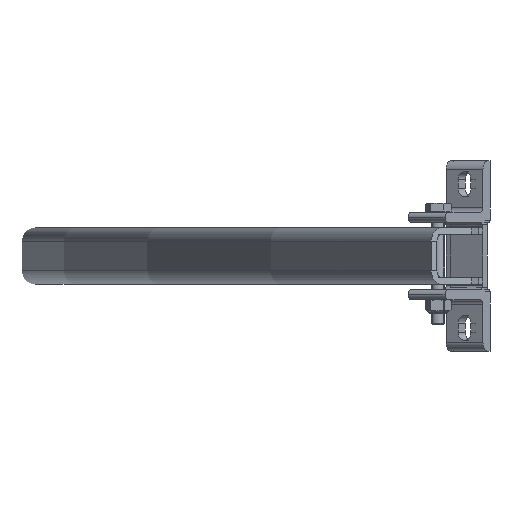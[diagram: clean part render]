
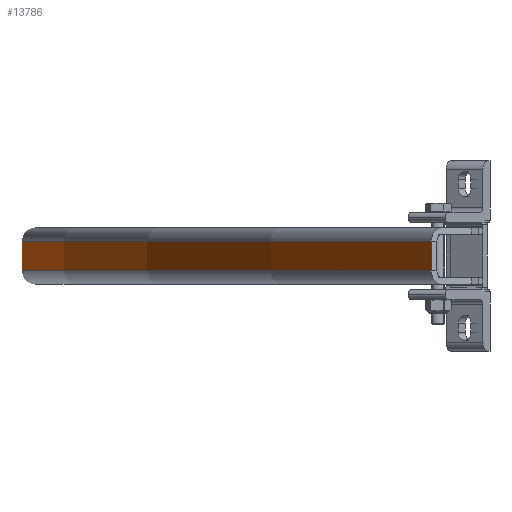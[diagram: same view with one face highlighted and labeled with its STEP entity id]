
A CAD part, front view. The second image highlights one B-rep face of the part: STEP entity #13786.
In plain terms, the highlighted cylindrical face has radius 1026 mm (diameter 2052 mm), a partial arc.
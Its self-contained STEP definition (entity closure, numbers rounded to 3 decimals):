
#1028 = CYLINDRICAL_SURFACE ( 'NONE', #17762, 1026. ) ;
#2442 = EDGE_CURVE ( 'NONE', #3223, #16980, #9757, .T. ) ;
#2485 = DIRECTION ( 'NONE',  ( 0., 0., -1. ) ) ;
#2706 = FACE_OUTER_BOUND ( 'NONE', #33342, .T. ) ;
#2731 = CARTESIAN_POINT ( 'NONE',  ( -6.625, 184.78, 587.389 ) ) ;
#3223 = VERTEX_POINT ( 'NONE', #21969 ) ;
#3275 = EDGE_CURVE ( 'NONE', #21508, #3223, #32443, .T. ) ;
#5217 = VECTOR ( 'NONE', #24027, 1000. ) ;
#6362 = ORIENTED_EDGE ( 'NONE', *, *, #33997, .F. ) ;
#7767 = EDGE_CURVE ( 'NONE', #29401, #21508, #28784, .T. ) ;
#9482 = ORIENTED_EDGE ( 'NONE', *, *, #7767, .T. ) ;
#9757 = CIRCLE ( 'NONE', #13305, 1026. ) ;
#10477 = AXIS2_PLACEMENT_3D ( 'NONE', #24227, #13186, #19244 ) ;
#11759 = CARTESIAN_POINT ( 'NONE',  ( 6.625, 184.78, 587.389 ) ) ;
#12054 = DIRECTION ( 'NONE',  ( -1., 0., 0. ) ) ;
#13186 = DIRECTION ( 'NONE',  ( 1., 0., 0. ) ) ;
#13305 = AXIS2_PLACEMENT_3D ( 'NONE', #13505, #32759, #2485 ) ;
#13505 = CARTESIAN_POINT ( 'NONE',  ( 6.625, 1026., 0. ) ) ;
#13786 = ADVANCED_FACE ( 'NONE', ( #2706 ), #1028, .T. ) ;
#16305 = ORIENTED_EDGE ( 'NONE', *, *, #3275, .T. ) ;
#16980 = VERTEX_POINT ( 'NONE', #11759 ) ;
#16986 = CARTESIAN_POINT ( 'NONE',  ( -12.625, 184.78, -587.389 ) ) ;
#17762 = AXIS2_PLACEMENT_3D ( 'NONE', #24168, #12054, #31289 ) ;
#17900 = ORIENTED_EDGE ( 'NONE', *, *, #2442, .T. ) ;
#17932 = CARTESIAN_POINT ( 'NONE',  ( -12.625, 184.78, 587.389 ) ) ;
#19244 = DIRECTION ( 'NONE',  ( 0., 0., 1. ) ) ;
#21334 = LINE ( 'NONE', #17932, #5217 ) ;
#21508 = VERTEX_POINT ( 'NONE', #23151 ) ;
#21969 = CARTESIAN_POINT ( 'NONE',  ( 6.625, 184.78, -587.389 ) ) ;
#23151 = CARTESIAN_POINT ( 'NONE',  ( -6.625, 184.78, -587.389 ) ) ;
#24027 = DIRECTION ( 'NONE',  ( 1., 0., 0. ) ) ;
#24168 = CARTESIAN_POINT ( 'NONE',  ( -12.625, 1026., 0. ) ) ;
#24227 = CARTESIAN_POINT ( 'NONE',  ( -6.625, 1026., 0. ) ) ;
#28784 = CIRCLE ( 'NONE', #10477, 1026. ) ;
#29401 = VERTEX_POINT ( 'NONE', #2731 ) ;
#29867 = VECTOR ( 'NONE', #34049, 1000. ) ;
#31289 = DIRECTION ( 'NONE',  ( 0., 0., 1. ) ) ;
#32443 = LINE ( 'NONE', #16986, #29867 ) ;
#32759 = DIRECTION ( 'NONE',  ( -1., 0., 0. ) ) ;
#33342 = EDGE_LOOP ( 'NONE', ( #6362, #9482, #16305, #17900 ) ) ;
#33997 = EDGE_CURVE ( 'NONE', #29401, #16980, #21334, .T. ) ;
#34049 = DIRECTION ( 'NONE',  ( 1., 0., 0. ) ) ;
